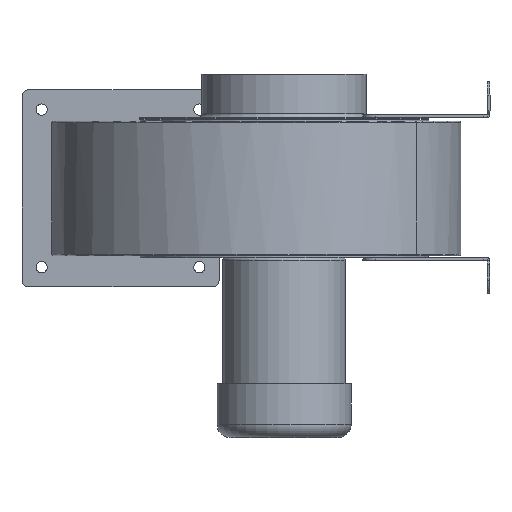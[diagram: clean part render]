
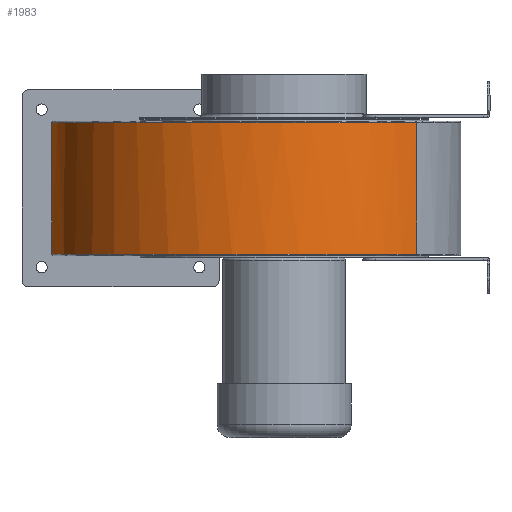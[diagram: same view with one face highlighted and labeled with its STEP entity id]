
A CAD part, left-side view. The second image highlights one B-rep face of the part: STEP entity #1983.
In plain terms, the highlighted free-form (B-spline) face has degree [3, 1] with [16, 2] control points.
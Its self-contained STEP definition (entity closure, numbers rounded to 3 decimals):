
#56=B_SPLINE_CURVE_WITH_KNOTS('',3,(#3317,#3318,#3319,#3320,#3321,#3322,
#3323,#3324,#3325,#3326,#3327,#3328,#3329,#3330,#3331,#3332,#3333,#3334,
#3335,#3336,#3337,#3338,#3339,#3340,#3341,#3342,#3343,#3344,#3345,#3346,
#3347),.UNSPECIFIED.,.F.,.F.,(4,1,1,1,1,1,1,1,1,1,1,1,1,1,1,1,1,1,1,1,1,
1,1,1,1,1,1,1,4),(0.,0.024,0.035,0.047,
0.059,0.071,0.083,0.095,
0.118,0.13,0.142,0.166,
0.177,0.189,0.201,0.213,
0.225,0.237,0.248,0.26,
0.272,0.284,0.296,0.308,
0.319,0.331,0.343,0.355,0.379),
 .UNSPECIFIED.);
#57=B_SPLINE_CURVE_WITH_KNOTS('',3,(#3348,#3349,#3350,#3351,#3352,#3353,
#3354,#3355,#3356,#3357,#3358,#3359,#3360,#3361,#3362,#3363,#3364,#3365,
#3366,#3367,#3368,#3369,#3370,#3371,#3372,#3373,#3374,#3375,#3376,#3377,
#3378),.UNSPECIFIED.,.F.,.F.,(4,1,1,1,1,1,1,1,1,1,1,1,1,1,1,1,1,1,1,1,1,
1,1,1,1,1,1,1,4),(0.,0.024,0.035,0.047,
0.059,0.071,0.082,0.094,
0.106,0.118,0.129,0.141,
0.153,0.165,0.176,0.188,
0.2,0.212,0.235,0.247,
0.259,0.282,0.294,0.306,
0.317,0.329,0.341,0.353,
0.376),.UNSPECIFIED.);
#68=B_SPLINE_SURFACE_WITH_KNOTS('',3,1,((#3285,#3286),(#3287,#3288),(#3289,
#3290),(#3291,#3292),(#3293,#3294),(#3295,#3296),(#3297,#3298),(#3299,#3300),
(#3301,#3302),(#3303,#3304),(#3305,#3306),(#3307,#3308),(#3309,#3310),(#3311,
#3312),(#3313,#3314),(#3315,#3316)),.SURF_OF_LINEAR_EXTRUSION.,.F.,.F.,
 .F.,(4,1,1,1,1,1,1,1,1,1,1,1,1,4),(2,2),(0.,0.125,0.25,0.313,0.375,0.438,
0.5,0.625,0.688,0.75,0.813,0.875,0.938,1.),(0.,1.),.UNSPECIFIED.);
#414=ORIENTED_EDGE('',*,*,#822,.T.);
#415=ORIENTED_EDGE('',*,*,#854,.T.);
#416=ORIENTED_EDGE('',*,*,#833,.F.);
#417=ORIENTED_EDGE('',*,*,#855,.T.);
#822=EDGE_CURVE('',#1055,#1054,#1229,.T.);
#833=EDGE_CURVE('',#1062,#1063,#1236,.T.);
#854=EDGE_CURVE('',#1054,#1063,#56,.T.);
#855=EDGE_CURVE('',#1062,#1055,#57,.T.);
#1054=VERTEX_POINT('',#3118);
#1055=VERTEX_POINT('',#3120);
#1062=VERTEX_POINT('',#3198);
#1063=VERTEX_POINT('',#3199);
#1229=LINE('',#3119,#1307);
#1236=LINE('',#3197,#1314);
#1307=VECTOR('',#2511,1000.);
#1314=VECTOR('',#2526,1000.);
#1424=EDGE_LOOP('',(#414,#415,#416,#417));
#1698=FACE_BOUND('',#1424,.T.);
#1983=ADVANCED_FACE('',(#1698),#68,.T.);
#2511=DIRECTION('',(0.,0.,-1.));
#2526=DIRECTION('',(0.,0.,-1.));
#3118=CARTESIAN_POINT('',(-0.066,176.7,-50.));
#3119=CARTESIAN_POINT('',(-0.066,176.7,51.2));
#3120=CARTESIAN_POINT('',(-0.066,176.7,50.));
#3197=CARTESIAN_POINT('',(-105.,-101.005,51.2));
#3198=CARTESIAN_POINT('',(-105.,-101.005,50.));
#3199=CARTESIAN_POINT('',(-105.,-101.005,-50.));
#3285=CARTESIAN_POINT('',(-105.,-101.005,50.));
#3286=CARTESIAN_POINT('',(-105.,-101.005,-50.));
#3287=CARTESIAN_POINT('',(-116.993,-90.933,50.));
#3288=CARTESIAN_POINT('',(-116.993,-90.933,-50.));
#3289=CARTESIAN_POINT('',(-137.741,-66.875,50.));
#3290=CARTESIAN_POINT('',(-137.741,-66.875,-50.));
#3291=CARTESIAN_POINT('',(-151.827,-29.412,50.));
#3292=CARTESIAN_POINT('',(-151.827,-29.412,-50.));
#3293=CARTESIAN_POINT('',(-156.091,2.146,50.));
#3294=CARTESIAN_POINT('',(-156.091,2.146,-50.));
#3295=CARTESIAN_POINT('',(-155.769,25.879,50.));
#3296=CARTESIAN_POINT('',(-155.769,25.879,-50.));
#3297=CARTESIAN_POINT('',(-152.035,49.161,50.));
#3298=CARTESIAN_POINT('',(-152.035,49.161,-50.));
#3299=CARTESIAN_POINT('',(-142.731,79.104,50.));
#3300=CARTESIAN_POINT('',(-142.731,79.104,-50.));
#3301=CARTESIAN_POINT('',(-127.258,106.61,50.));
#3302=CARTESIAN_POINT('',(-127.258,106.61,-50.));
#3303=CARTESIAN_POINT('',(-106.199,130.484,50.));
#3304=CARTESIAN_POINT('',(-106.199,130.484,-50.));
#3305=CARTESIAN_POINT('',(-87.999,146.048,50.));
#3306=CARTESIAN_POINT('',(-87.999,146.048,-50.));
#3307=CARTESIAN_POINT('',(-67.841,158.718,50.));
#3308=CARTESIAN_POINT('',(-67.841,158.718,-50.));
#3309=CARTESIAN_POINT('',(-46.152,167.871,50.));
#3310=CARTESIAN_POINT('',(-46.152,167.871,-50.));
#3311=CARTESIAN_POINT('',(-23.378,173.195,50.));
#3312=CARTESIAN_POINT('',(-23.378,173.195,-50.));
#3313=CARTESIAN_POINT('',(-7.836,175.534,50.));
#3314=CARTESIAN_POINT('',(-7.836,175.534,-50.));
#3315=CARTESIAN_POINT('',(-0.066,176.7,50.));
#3316=CARTESIAN_POINT('',(-0.066,176.7,-50.));
#3317=CARTESIAN_POINT('',(-0.066,176.7,-50.));
#3318=CARTESIAN_POINT('',(-7.865,175.529,-50.));
#3319=CARTESIAN_POINT('',(-19.584,173.771,-50.));
#3320=CARTESIAN_POINT('',(-34.933,170.485,-50.));
#3321=CARTESIAN_POINT('',(-46.24,167.32,-50.));
#3322=CARTESIAN_POINT('',(-57.248,163.205,-50.));
#3323=CARTESIAN_POINT('',(-68.022,158.083,-50.));
#3324=CARTESIAN_POINT('',(-78.261,152.163,-50.));
#3325=CARTESIAN_POINT('',(-91.181,143.326,-50.));
#3326=CARTESIAN_POINT('',(-103.077,133.156,-50.));
#3327=CARTESIAN_POINT('',(-114.012,121.627,-50.));
#3328=CARTESIAN_POINT('',(-124.016,109.479,-50.));
#3329=CARTESIAN_POINT('',(-132.659,96.426,-50.));
#3330=CARTESIAN_POINT('',(-139.928,82.45,-50.));
#3331=CARTESIAN_POINT('',(-144.657,71.51,-50.));
#3332=CARTESIAN_POINT('',(-148.544,60.399,-50.));
#3333=CARTESIAN_POINT('',(-151.629,49.059,-50.));
#3334=CARTESIAN_POINT('',(-153.903,37.52,-50.));
#3335=CARTESIAN_POINT('',(-155.354,25.714,-50.));
#3336=CARTESIAN_POINT('',(-155.933,13.872,-50.));
#3337=CARTESIAN_POINT('',(-155.644,2.102,-50.));
#3338=CARTESIAN_POINT('',(-154.499,-9.616,-50.));
#3339=CARTESIAN_POINT('',(-152.478,-21.316,-50.));
#3340=CARTESIAN_POINT('',(-149.575,-32.838,-50.));
#3341=CARTESIAN_POINT('',(-145.826,-43.994,-50.));
#3342=CARTESIAN_POINT('',(-141.202,-54.811,-50.));
#3343=CARTESIAN_POINT('',(-135.63,-65.309,-50.));
#3344=CARTESIAN_POINT('',(-129.136,-75.266,-50.));
#3345=CARTESIAN_POINT('',(-119.464,-87.593,-50.));
#3346=CARTESIAN_POINT('',(-111.083,-95.896,-50.));
#3347=CARTESIAN_POINT('',(-105.,-101.005,-50.));
#3348=CARTESIAN_POINT('',(-105.,-101.005,50.));
#3349=CARTESIAN_POINT('',(-111.083,-95.896,50.));
#3350=CARTESIAN_POINT('',(-119.464,-87.593,50.));
#3351=CARTESIAN_POINT('',(-129.136,-75.266,50.));
#3352=CARTESIAN_POINT('',(-135.63,-65.309,50.));
#3353=CARTESIAN_POINT('',(-141.202,-54.811,50.));
#3354=CARTESIAN_POINT('',(-145.826,-43.994,50.));
#3355=CARTESIAN_POINT('',(-149.575,-32.838,50.));
#3356=CARTESIAN_POINT('',(-152.478,-21.316,50.));
#3357=CARTESIAN_POINT('',(-154.499,-9.617,50.));
#3358=CARTESIAN_POINT('',(-155.644,2.102,50.));
#3359=CARTESIAN_POINT('',(-155.933,13.872,50.));
#3360=CARTESIAN_POINT('',(-155.354,25.714,50.));
#3361=CARTESIAN_POINT('',(-153.903,37.52,50.));
#3362=CARTESIAN_POINT('',(-151.629,49.059,50.));
#3363=CARTESIAN_POINT('',(-148.544,60.399,50.));
#3364=CARTESIAN_POINT('',(-144.657,71.51,50.));
#3365=CARTESIAN_POINT('',(-139.928,82.449,50.));
#3366=CARTESIAN_POINT('',(-132.659,96.426,50.));
#3367=CARTESIAN_POINT('',(-124.016,109.479,50.));
#3368=CARTESIAN_POINT('',(-114.012,121.627,50.));
#3369=CARTESIAN_POINT('',(-103.077,133.156,50.));
#3370=CARTESIAN_POINT('',(-91.181,143.326,50.));
#3371=CARTESIAN_POINT('',(-78.261,152.163,50.));
#3372=CARTESIAN_POINT('',(-68.022,158.083,50.));
#3373=CARTESIAN_POINT('',(-57.248,163.205,50.));
#3374=CARTESIAN_POINT('',(-46.24,167.32,50.));
#3375=CARTESIAN_POINT('',(-34.933,170.485,50.));
#3376=CARTESIAN_POINT('',(-19.585,173.771,50.));
#3377=CARTESIAN_POINT('',(-7.865,175.529,50.));
#3378=CARTESIAN_POINT('',(-0.066,176.7,50.));
